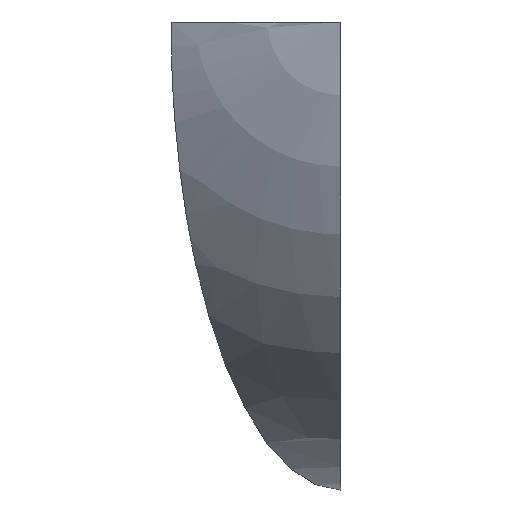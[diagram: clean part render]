
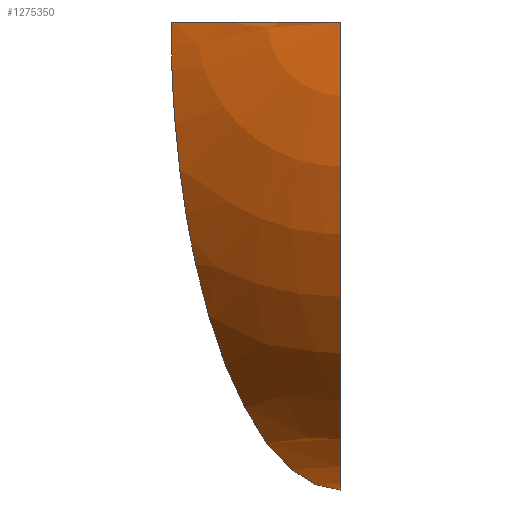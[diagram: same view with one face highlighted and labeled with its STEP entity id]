
A CAD part, left-side view. The second image highlights one B-rep face of the part: STEP entity #1275350.
In plain terms, the highlighted spherical face has radius 2.032 mm.
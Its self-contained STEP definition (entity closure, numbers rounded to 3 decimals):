
#1264266=CARTESIAN_POINT('Vertex',(88.014,315.495,5.307));
#1264267=VERTEX_POINT('',#1264266);
#1270420=CARTESIAN_POINT('Vertex',(90.046,317.389,6.045));
#1270421=VERTEX_POINT('',#1270420);
#1270444=CARTESIAN_POINT('Vertex',(88.014,315.357,6.045));
#1270445=VERTEX_POINT('',#1270444);
#1270464=CARTESIAN_POINT('Axis2P3D Location',(88.014,317.389,6.045));
#1270465=DIRECTION('Axis2P3D Direction',(0.,-0.,-1.));
#1270466=AXIS2_PLACEMENT_3D('Circle Axis2P3D',#1270464,#1270465,$);
#1270467=CIRCLE('generated circle',#1270466,2.032);
#1270468=EDGE_CURVE('',#1270421,#1270445,#1270467,.T.);
#1270481=CARTESIAN_POINT('Axis2P3D Location',(88.014,317.389,6.045));
#1270482=DIRECTION('Axis2P3D Direction',(-1.,0.,0.));
#1270483=AXIS2_PLACEMENT_3D('Circle Axis2P3D',#1270481,#1270482,$);
#1270484=CIRCLE('generated circle',#1270483,2.032);
#1270485=EDGE_CURVE('',#1270445,#1264267,#1270484,.F.);
#1275326=CARTESIAN_POINT('Axis2P3D Location',(88.014,317.389,6.045));
#1275327=DIRECTION('Axis2P3D Direction',(0.,-1.,0.));
#1275328=DIRECTION('Axis2P3D XDirection',(0.,0.,-1.));
#1275329=AXIS2_PLACEMENT_3D('Sphere Axis2P3D',#1275326,#1275327,#1275328);
#1275330=SPHERICAL_SURFACE('',#1275329,2.032);
#1275331=B_SPLINE_CURVE_WITH_KNOTS('',5,(#1275332,#1275333,#1275334,#1275335,#1275336,#1275337,#1275338,#1275339,#1275340,#1275341,#1275342,#1275343),.UNSPECIFIED.,.F.,.U.,(6,3,3,6),(0.,2.488,3.645,5.498),.UNSPECIFIED.);
#1275332=CARTESIAN_POINT('Control Point',(90.046,317.389,6.045));
#1275333=CARTESIAN_POINT('Control Point',(90.046,317.061,5.917));
#1275334=CARTESIAN_POINT('Control Point',(89.97,316.733,5.789));
#1275335=CARTESIAN_POINT('Control Point',(89.813,316.418,5.666));
#1275336=CARTESIAN_POINT('Control Point',(89.489,316.035,5.517));
#1275337=CARTESIAN_POINT('Control Point',(89.102,315.781,5.418));
#1275338=CARTESIAN_POINT('Control Point',(88.977,315.715,5.393));
#1275339=CARTESIAN_POINT('Control Point',(88.665,315.579,5.34));
#1275340=CARTESIAN_POINT('Control Point',(88.403,315.522,5.318));
#1275341=CARTESIAN_POINT('Control Point',(88.267,315.505,5.311));
#1275342=CARTESIAN_POINT('Control Point',(88.14,315.495,5.307));
#1275343=CARTESIAN_POINT('Control Point',(88.014,315.495,5.307));
#1275344=EDGE_CURVE('',#1270421,#1264267,#1275331,.T.);
#1275345=EDGE_LOOP('',(#1275346,#1275347,#1275348));
#1275346=ORIENTED_EDGE('',*,*,#1275344,.T.);
#1275347=ORIENTED_EDGE('',*,*,#1270485,.F.);
#1275348=ORIENTED_EDGE('',*,*,#1270468,.F.);
#1275349=FACE_OUTER_BOUND('',#1275345,.T.);
#1275350=ADVANCED_FACE('PartBody',(#1275349),#1275330,.F.);
